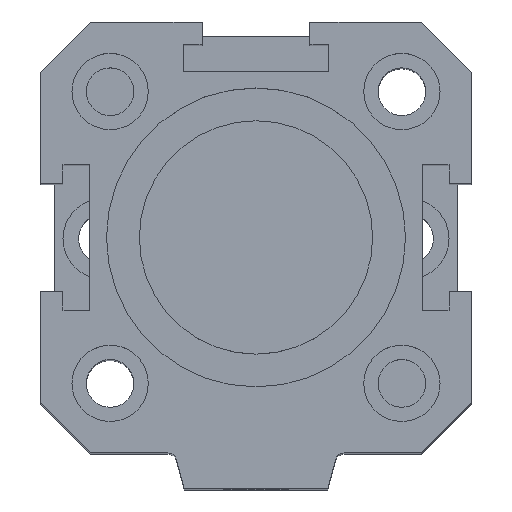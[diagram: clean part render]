
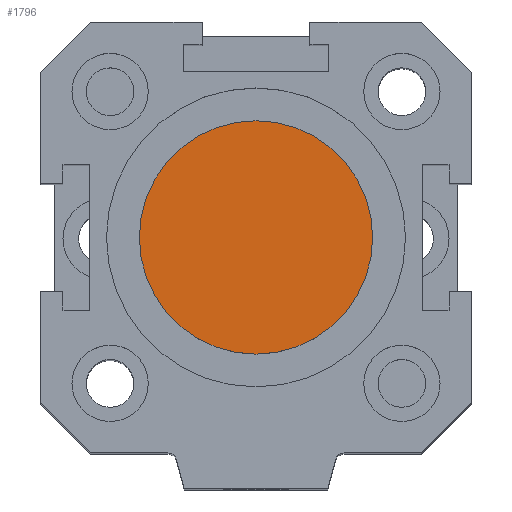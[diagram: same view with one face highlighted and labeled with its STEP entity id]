
A CAD part, top view. The second image highlights one B-rep face of the part: STEP entity #1796.
In plain terms, the highlighted planar face has unit normal (0, 0, 1).
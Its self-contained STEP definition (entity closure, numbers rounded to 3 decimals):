
#373=PLANE('',#1961);
#550=FACE_OUTER_BOUND('',#705,.T.);
#705=EDGE_LOOP('',(#1437));
#814=CIRCLE('',#1881,13.);
#890=VERTEX_POINT('',#2609);
#1060=EDGE_CURVE('',#890,#890,#814,.T.);
#1437=ORIENTED_EDGE('',*,*,#1060,.T.);
#1796=ADVANCED_FACE('',(#550),#373,.T.);
#1881=AXIS2_PLACEMENT_3D('',#2610,#2083,#2084);
#1961=AXIS2_PLACEMENT_3D('',#2876,#2315,#2316);
#2083=DIRECTION('center_axis',(0.,0.,1.));
#2084=DIRECTION('ref_axis',(-1.,0.,0.));
#2315=DIRECTION('center_axis',(0.,0.,1.));
#2316=DIRECTION('ref_axis',(1.,0.,0.));
#2609=CARTESIAN_POINT('',(13.,0.,38.5));
#2610=CARTESIAN_POINT('Origin',(0.,0.,38.5));
#2876=CARTESIAN_POINT('Origin',(0.,0.555,
38.5));
